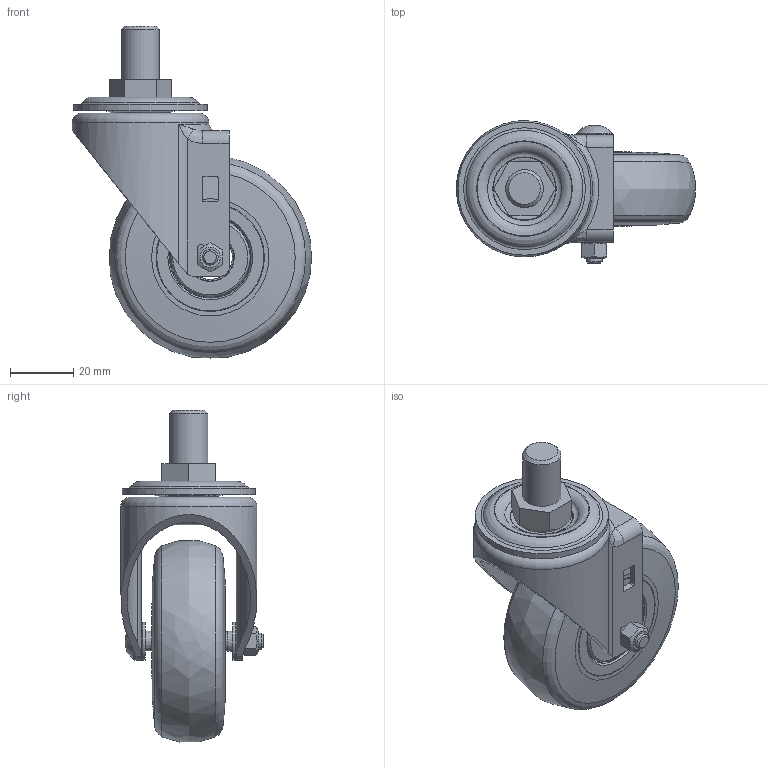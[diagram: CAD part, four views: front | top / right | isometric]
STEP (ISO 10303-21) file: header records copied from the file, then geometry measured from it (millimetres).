
FILE_DESCRIPTION(/* description */ (''),/* implementation_level */ '2;1');
FILE_NAME(/* name */ 'C:\Users\admin\Desktop\JYS\14.제품도면\GL-SERIES\GL-65-ASS-EUS-HP.stp',/* time_stamp */ '2024-01-11T17:05:49+09:00',/* author */ ('admin'),/* organization */ (''),/* preprocessor_version */ 'ST-DEVELOPER v18.1',/* originating_system */ 'Autodesk Inventor 2021',/* authorisation */ '');
FILE_SCHEMA (('AUTOMOTIVE_DESIGN { 1 0 10303 214 3 1 1 }'));
Length unit declared in the file: millimetre
Products named in the file (3): GL-65-ASS-EUS; GL-65-ASS; GDS-65-WHEEL_Sub Assy_Rev01
Assembly tree (2 placements, depth 2):
  GL-65-ASS-EUS
    GL-65-ASS
    GDS-65-WHEEL_Sub Assy_Rev01
Bounding box: 75.5 x 45 x 104.78 mm (x, y, z)
Volume: 83684.2 mm3; surface area: 31720.3 mm2
Topology: 3 solids, 3 shells, 268 faces, 651 edges, 425 vertices
Faces by surface type: plane 115, bspline 43, torus 43, cylinder 41, cone 26
Full cylindrical faces by diameter (mm): 5 x1, 6 x1, 7 x1, 11 x1, 11.1 x1, 11.5 x1, 12 x1, 21.004 x1, 25 x2, 33.804 x1, 39 x1, 42 x1, 43 x1
Entity records: 9018 total; most frequent: CARTESIAN_POINT 2626, ORIENTED_EDGE 1292, DIRECTION 1270, EDGE_CURVE 646, AXIS2_PLACEMENT_3D 498, VERTEX_POINT 425, EDGE_LOOP 319, LINE 274
